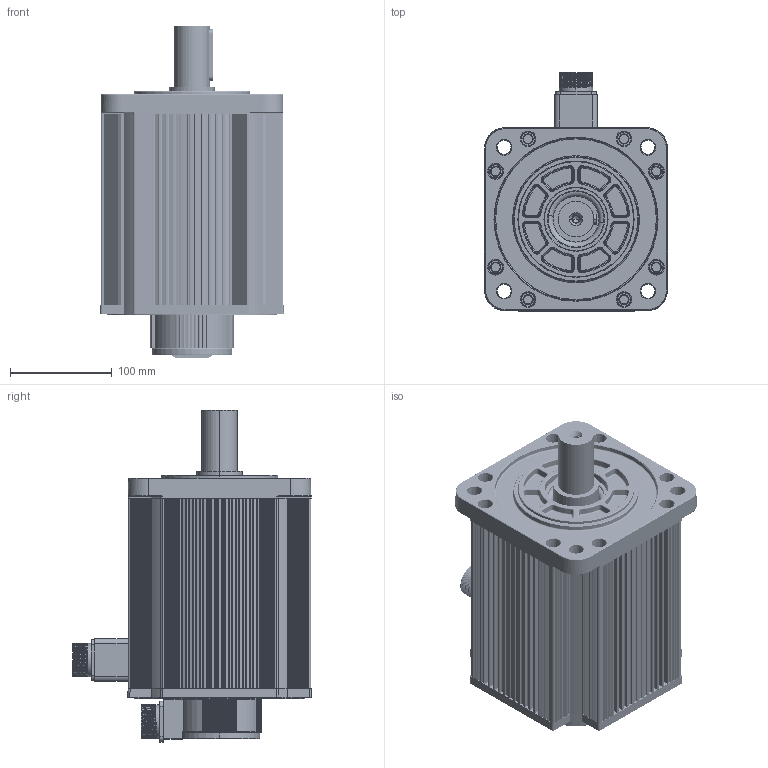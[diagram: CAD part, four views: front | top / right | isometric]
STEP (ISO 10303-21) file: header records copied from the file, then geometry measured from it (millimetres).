
FILE_DESCRIPTION (( 'STEP AP203' ), '1' );
FILE_NAME ('180zf1500r4.5kw.STEP', '2024-10-23T06:04:34', ( 'MicroSoft' ), ( 'MicroSoft' ), 'SwSTEP 2.0', 'SolidWorks 2020', '' );
FILE_SCHEMA (( 'CONFIG_CONTROL_DESIGN' ));
Length unit declared in the file: millimetre
Products named in the file (14): Z航空插头-4芯（公头电机端）32; 180ヶ傷裔陔遴 1; Z130A-01-02(编码器后罩壳）; 180堤盄碟; 180后端盖 新款 1_制动后盖1; 180zf1500r4.5kw; 180 平键（14-9-91）; 180-X陔遴儂褲_4.5; Z180-01-01A(180电机轴-锥轴全系列)-3000_5.5KW; 180呿蹋晤鎢ん欶褲; Z130A-01-03(编码器后罩壳封盖）; Z航插15芯（公头电机端）28; 180綴粣創; 180ヶ粣創
Assembly tree (13 placements, depth 3):
  180zf1500r4.5kw
    180-X陔遴儂褲_4.5
    180ヶ傷裔陔遴 1
    180后端盖 新款 1_制动后盖1
    Z180-01-01A(180电机轴-锥轴全系列)-3000_5.5KW
    180ヶ粣創
    180綴粣創
    180堤盄碟
    Z航空插头-4芯（公头电机端）32
    Z航插15芯（公头电机端）28
    180 平键（14-9-91）
    180呿蹋晤鎢ん欶褲
      Z130A-01-02(编码器后罩壳）
    Z130A-01-03(编码器后罩壳封盖）
Bounding box: 180.31 x 234.51 x 326.5 mm (x, y, z)
Volume: 2295308.9 mm3; surface area: 656404.6 mm2
Topology: 12 solids, 12 shells, 4850 faces, 12502 edges, 7711 vertices
Faces by surface type: cylinder 1831, plane 1351, bspline 688, torus 506, cone 292, sphere 182
Entity records: 179653 total; most frequent: CARTESIAN_POINT 62739, ORIENTED_EDGE 24652, DIRECTION 24283, EDGE_CURVE 12326, AXIS2_PLACEMENT_3D 9383, VERTEX_POINT 7677, VECTOR 5517, LINE 5517
